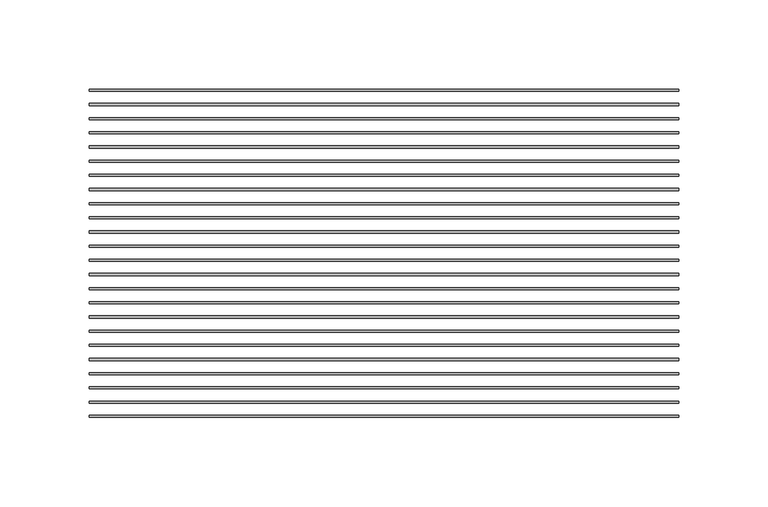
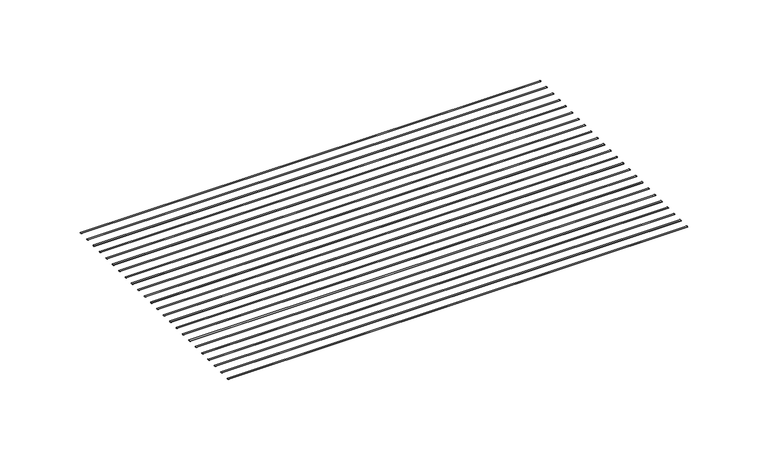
"""IFC4 building model written with IfcOpenShell, lengths in millimetres: proxy geometry, CRAi Generic Model Mesh Piece Face Based : CRAi Generic Model Mesh Piece Face Based."""

from ifc_helpers import new_model, si_unit, point, frame, origin, place, context, project, spatial, ellipse_curve, trimmed, source, transform, mapped, element, save
from ifc_brep_helpers import plane_surface, extruded_surface, advanced_brep


def generic_models_441de798(model_context):
    return source(origin(), model_context, "Body", "AdvancedBrep", [
        advanced_brep(
        [(-165.1, -59.177116, -2.9765625), (-165.1, -60.367741, -2.9765625), (165.1, -59.177116, -2.9765625), (165.1, -60.367741, -2.9765625)],
        [
            (0, 1, ellipse_curve(frame((-165.1, -59.7724285, -2.9765625), z_axis=(-1.0, 0.0, 0.0), x_axis=(0.0, -1.0, 0.0)), 0.5953125, 0.1984375)),
            (1, 0, ellipse_curve(frame((-165.1, -59.7724285, -2.9765625), z_axis=(-1.0, 0.0, 0.0), x_axis=(0.0, -1.0, 0.0)), 0.5953125, 0.1984375)),
            (2, 3, ellipse_curve(frame((165.1, -59.7724285, -2.9765625), z_axis=(1.0, 0.0, 0.0), x_axis=(0.0, -1.0, 0.0)), 0.5953125, 0.1984375)),
            (3, 2, ellipse_curve(frame((165.1, -59.7724285, -2.9765625), z_axis=(1.0, 0.0, 0.0), x_axis=(0.0, -1.0, 0.0)), 0.5953125, 0.1984375)),
            (0, 2),
            (3, 1),
        ],
        [
            plane_surface(frame((-165.1, -59.7724285, -2.9765625), z_axis=(-1.0, 0.0, 0.0), x_axis=(0.0, 0.0, 1.0))),
            plane_surface(frame((165.1, -59.7724285, -2.9765625), z_axis=(1.0, 0.0, 0.0), x_axis=(0.0, 0.0, 1.0))),
            extruded_surface(trimmed(ellipse_curve(frame((165.1, -59.7724285, -2.9765625), z_axis=(-1.0, 0.0, 0.0), x_axis=(0.0, -1.0, 0.0)), 0.5953125, 0.1984375), [point((165.1, -59.177116, -2.9765625))], [point((165.1, -60.367741, -2.9765625))], True, "CARTESIAN"), (-330.2, 0.0, 0.0), 330.2),
            extruded_surface(trimmed(ellipse_curve(frame((165.1, -59.7724285, -2.9765625), z_axis=(-1.0, 0.0, 0.0), x_axis=(0.0, -1.0, 0.0)), 0.5953125, 0.1984375), [point((165.1, -60.367741, -2.9765625))], [point((165.1, -59.177116, -2.9765625))], True, "CARTESIAN"), (-330.2, 0.0, 0.0), 330.2),
        ],
        [
            (0, [[1, 2]]),
            (1, [[3, 4]]),
            (2, [[-1, 5, -4, 6]]),
            (3, [[-2, -6, -3, -5]]),
        ],
    ),
        advanced_brep(
        [(-165.1, -67.114616, -2.9765625), (-165.1, -68.305241, -2.9765625), (165.1, -67.114616, -2.9765625), (165.1, -68.305241, -2.9765625)],
        [
            (0, 1, ellipse_curve(frame((-165.1, -67.7099285, -2.9765625), z_axis=(-1.0, 0.0, 0.0), x_axis=(0.0, -1.0, 0.0)), 0.5953125, 0.1984375)),
            (1, 0, ellipse_curve(frame((-165.1, -67.7099285, -2.9765625), z_axis=(-1.0, 0.0, 0.0), x_axis=(0.0, -1.0, 0.0)), 0.5953125, 0.1984375)),
            (2, 3, ellipse_curve(frame((165.1, -67.7099285, -2.9765625), z_axis=(1.0, 0.0, 0.0), x_axis=(0.0, -1.0, 0.0)), 0.5953125, 0.1984375)),
            (3, 2, ellipse_curve(frame((165.1, -67.7099285, -2.9765625), z_axis=(1.0, 0.0, 0.0), x_axis=(0.0, -1.0, 0.0)), 0.5953125, 0.1984375)),
            (0, 2),
            (3, 1),
        ],
        [
            plane_surface(frame((-165.1, -67.7099285, -2.9765625), z_axis=(-1.0, 0.0, 0.0), x_axis=(0.0, 0.0, 1.0))),
            plane_surface(frame((165.1, -67.7099285, -2.9765625), z_axis=(1.0, 0.0, 0.0), x_axis=(0.0, 0.0, 1.0))),
            extruded_surface(trimmed(ellipse_curve(frame((165.1, -67.7099285, -2.9765625), z_axis=(-1.0, 0.0, 0.0), x_axis=(0.0, -1.0, 0.0)), 0.5953125, 0.1984375), [point((165.1, -67.114616, -2.9765625))], [point((165.1, -68.305241, -2.9765625))], True, "CARTESIAN"), (-330.2, 0.0, 0.0), 330.2),
            extruded_surface(trimmed(ellipse_curve(frame((165.1, -67.7099285, -2.9765625), z_axis=(-1.0, 0.0, 0.0), x_axis=(0.0, -1.0, 0.0)), 0.5953125, 0.1984375), [point((165.1, -68.305241, -2.9765625))], [point((165.1, -67.114616, -2.9765625))], True, "CARTESIAN"), (-330.2, 0.0, 0.0), 330.2),
        ],
        [
            (0, [[1, 2]]),
            (1, [[3, 4]]),
            (2, [[-1, 5, -4, 6]]),
            (3, [[-2, -6, -3, -5]]),
        ],
    ),
        advanced_brep(
        [(-165.1, -75.052116, -2.9765625), (-165.1, -76.242741, -2.9765625), (165.1, -75.052116, -2.9765625), (165.1, -76.242741, -2.9765625)],
        [
            (0, 1, ellipse_curve(frame((-165.1, -75.6474285, -2.9765625), z_axis=(-1.0, 0.0, 0.0), x_axis=(0.0, -1.0, 0.0)), 0.5953125, 0.1984375)),
            (1, 0, ellipse_curve(frame((-165.1, -75.6474285, -2.9765625), z_axis=(-1.0, 0.0, 0.0), x_axis=(0.0, -1.0, 0.0)), 0.5953125, 0.1984375)),
            (2, 3, ellipse_curve(frame((165.1, -75.6474285, -2.9765625), z_axis=(1.0, 0.0, 0.0), x_axis=(0.0, -1.0, 0.0)), 0.5953125, 0.1984375)),
            (3, 2, ellipse_curve(frame((165.1, -75.6474285, -2.9765625), z_axis=(1.0, 0.0, 0.0), x_axis=(0.0, -1.0, 0.0)), 0.5953125, 0.1984375)),
            (0, 2),
            (3, 1),
        ],
        [
            plane_surface(frame((-165.1, -75.6474285, -2.9765625), z_axis=(-1.0, 0.0, 0.0), x_axis=(0.0, 0.0, 1.0))),
            plane_surface(frame((165.1, -75.6474285, -2.9765625), z_axis=(1.0, 0.0, 0.0), x_axis=(0.0, 0.0, 1.0))),
            extruded_surface(trimmed(ellipse_curve(frame((165.1, -75.6474285, -2.9765625), z_axis=(-1.0, 0.0, 0.0), x_axis=(0.0, -1.0, 0.0)), 0.5953125, 0.1984375), [point((165.1, -75.052116, -2.9765625))], [point((165.1, -76.242741, -2.9765625))], True, "CARTESIAN"), (-330.2, 0.0, 0.0), 330.2),
            extruded_surface(trimmed(ellipse_curve(frame((165.1, -75.6474285, -2.9765625), z_axis=(-1.0, 0.0, 0.0), x_axis=(0.0, -1.0, 0.0)), 0.5953125, 0.1984375), [point((165.1, -76.242741, -2.9765625))], [point((165.1, -75.052116, -2.9765625))], True, "CARTESIAN"), (-330.2, 0.0, 0.0), 330.2),
        ],
        [
            (0, [[1, 2]]),
            (1, [[3, 4]]),
            (2, [[-1, 5, -4, 6]]),
            (3, [[-2, -6, -3, -5]]),
        ],
    ),
        advanced_brep(
        [(-165.1, -82.989616, -2.9765625), (-165.1, -84.180241, -2.9765625), (165.1, -82.989616, -2.9765625), (165.1, -84.180241, -2.9765625)],
        [
            (0, 1, ellipse_curve(frame((-165.1, -83.5849285, -2.9765625), z_axis=(-1.0, 0.0, 0.0), x_axis=(0.0, -1.0, 0.0)), 0.5953125, 0.1984375)),
            (1, 0, ellipse_curve(frame((-165.1, -83.5849285, -2.9765625), z_axis=(-1.0, 0.0, 0.0), x_axis=(0.0, -1.0, 0.0)), 0.5953125, 0.1984375)),
            (2, 3, ellipse_curve(frame((165.1, -83.5849285, -2.9765625), z_axis=(1.0, 0.0, 0.0), x_axis=(0.0, -1.0, 0.0)), 0.5953125, 0.1984375)),
            (3, 2, ellipse_curve(frame((165.1, -83.5849285, -2.9765625), z_axis=(1.0, 0.0, 0.0), x_axis=(0.0, -1.0, 0.0)), 0.5953125, 0.1984375)),
            (0, 2),
            (3, 1),
        ],
        [
            plane_surface(frame((-165.1, -83.5849285, -2.9765625), z_axis=(-1.0, 0.0, 0.0), x_axis=(0.0, 0.0, 1.0))),
            plane_surface(frame((165.1, -83.5849285, -2.9765625), z_axis=(1.0, 0.0, 0.0), x_axis=(0.0, 0.0, 1.0))),
            extruded_surface(trimmed(ellipse_curve(frame((165.1, -83.5849285, -2.9765625), z_axis=(-1.0, 0.0, 0.0), x_axis=(0.0, -1.0, 0.0)), 0.5953125, 0.1984375), [point((165.1, -82.989616, -2.9765625))], [point((165.1, -84.180241, -2.9765625))], True, "CARTESIAN"), (-330.2, 0.0, 0.0), 330.2),
            extruded_surface(trimmed(ellipse_curve(frame((165.1, -83.5849285, -2.9765625), z_axis=(-1.0, 0.0, 0.0), x_axis=(0.0, -1.0, 0.0)), 0.5953125, 0.1984375), [point((165.1, -84.180241, -2.9765625))], [point((165.1, -82.989616, -2.9765625))], True, "CARTESIAN"), (-330.2, 0.0, 0.0), 330.2),
        ],
        [
            (0, [[1, 2]]),
            (1, [[3, 4]]),
            (2, [[-1, 5, -4, 6]]),
            (3, [[-2, -6, -3, -5]]),
        ],
    ),
        advanced_brep(
        [(-165.1, -90.927116, -2.9765625), (-165.1, -92.117741, -2.9765625), (165.1, -90.927116, -2.9765625), (165.1, -92.117741, -2.9765625)],
        [
            (0, 1, ellipse_curve(frame((-165.1, -91.5224285, -2.9765625), z_axis=(-1.0, 0.0, 0.0), x_axis=(0.0, -1.0, 0.0)), 0.5953125, 0.1984375)),
            (1, 0, ellipse_curve(frame((-165.1, -91.5224285, -2.9765625), z_axis=(-1.0, 0.0, 0.0), x_axis=(0.0, -1.0, 0.0)), 0.5953125, 0.1984375)),
            (2, 3, ellipse_curve(frame((165.1, -91.5224285, -2.9765625), z_axis=(1.0, 0.0, 0.0), x_axis=(0.0, -1.0, 0.0)), 0.5953125, 0.1984375)),
            (3, 2, ellipse_curve(frame((165.1, -91.5224285, -2.9765625), z_axis=(1.0, 0.0, 0.0), x_axis=(0.0, -1.0, 0.0)), 0.5953125, 0.1984375)),
            (0, 2),
            (3, 1),
        ],
        [
            plane_surface(frame((-165.1, -91.5224285, -2.9765625), z_axis=(-1.0, 0.0, 0.0), x_axis=(0.0, 0.0, 1.0))),
            plane_surface(frame((165.1, -91.5224285, -2.9765625), z_axis=(1.0, 0.0, 0.0), x_axis=(0.0, 0.0, 1.0))),
            extruded_surface(trimmed(ellipse_curve(frame((165.1, -91.5224285, -2.9765625), z_axis=(-1.0, 0.0, 0.0), x_axis=(0.0, -1.0, 0.0)), 0.5953125, 0.1984375), [point((165.1, -90.927116, -2.9765625))], [point((165.1, -92.117741, -2.9765625))], True, "CARTESIAN"), (-330.2, 0.0, 0.0), 330.2),
            extruded_surface(trimmed(ellipse_curve(frame((165.1, -91.5224285, -2.9765625), z_axis=(-1.0, 0.0, 0.0), x_axis=(0.0, -1.0, 0.0)), 0.5953125, 0.1984375), [point((165.1, -92.117741, -2.9765625))], [point((165.1, -90.927116, -2.9765625))], True, "CARTESIAN"), (-330.2, 0.0, 0.0), 330.2),
        ],
        [
            (0, [[1, 2]]),
            (1, [[3, 4]]),
            (2, [[-1, 5, -4, 6]]),
            (3, [[-2, -6, -3, -5]]),
        ],
    ),
        advanced_brep(
        [(-165.1, -98.864616, -2.9765625), (-165.1, -100.055241, -2.9765625), (165.1, -98.864616, -2.9765625), (165.1, -100.055241, -2.9765625)],
        [
            (0, 1, ellipse_curve(frame((-165.1, -99.4599285, -2.9765625), z_axis=(-1.0, 0.0, 0.0), x_axis=(0.0, -1.0, 0.0)), 0.5953125, 0.1984375)),
            (1, 0, ellipse_curve(frame((-165.1, -99.4599285, -2.9765625), z_axis=(-1.0, 0.0, 0.0), x_axis=(0.0, -1.0, 0.0)), 0.5953125, 0.1984375)),
            (2, 3, ellipse_curve(frame((165.1, -99.4599285, -2.9765625), z_axis=(1.0, 0.0, 0.0), x_axis=(0.0, -1.0, 0.0)), 0.5953125, 0.1984375)),
            (3, 2, ellipse_curve(frame((165.1, -99.4599285, -2.9765625), z_axis=(1.0, 0.0, 0.0), x_axis=(0.0, -1.0, 0.0)), 0.5953125, 0.1984375)),
            (0, 2),
            (3, 1),
        ],
        [
            plane_surface(frame((-165.1, -99.4599285, -2.9765625), z_axis=(-1.0, 0.0, 0.0), x_axis=(0.0, 0.0, 1.0))),
            plane_surface(frame((165.1, -99.4599285, -2.9765625), z_axis=(1.0, 0.0, 0.0), x_axis=(0.0, 0.0, 1.0))),
            extruded_surface(trimmed(ellipse_curve(frame((165.1, -99.4599285, -2.9765625), z_axis=(-1.0, 0.0, 0.0), x_axis=(0.0, -1.0, 0.0)), 0.5953125, 0.1984375), [point((165.1, -98.864616, -2.9765625))], [point((165.1, -100.055241, -2.9765625))], True, "CARTESIAN"), (-330.2, 0.0, 0.0), 330.2),
            extruded_surface(trimmed(ellipse_curve(frame((165.1, -99.4599285, -2.9765625), z_axis=(-1.0, 0.0, 0.0), x_axis=(0.0, -1.0, 0.0)), 0.5953125, 0.1984375), [point((165.1, -100.055241, -2.9765625))], [point((165.1, -98.864616, -2.9765625))], True, "CARTESIAN"), (-330.2, 0.0, 0.0), 330.2),
        ],
        [
            (0, [[1, 2]]),
            (1, [[3, 4]]),
            (2, [[-1, 5, -4, 6]]),
            (3, [[-2, -6, -3, -5]]),
        ],
    ),
        advanced_brep(
        [(-165.1, -106.802116, -2.9765625), (-165.1, -107.992741, -2.9765625), (165.1, -106.802116, -2.9765625), (165.1, -107.992741, -2.9765625)],
        [
            (0, 1, ellipse_curve(frame((-165.1, -107.3974285, -2.9765625), z_axis=(-1.0, 0.0, 0.0), x_axis=(0.0, -1.0, 0.0)), 0.5953125, 0.1984375)),
            (1, 0, ellipse_curve(frame((-165.1, -107.3974285, -2.9765625), z_axis=(-1.0, 0.0, 0.0), x_axis=(0.0, -1.0, 0.0)), 0.5953125, 0.1984375)),
            (2, 3, ellipse_curve(frame((165.1, -107.3974285, -2.9765625), z_axis=(1.0, 0.0, 0.0), x_axis=(0.0, -1.0, 0.0)), 0.5953125, 0.1984375)),
            (3, 2, ellipse_curve(frame((165.1, -107.3974285, -2.9765625), z_axis=(1.0, 0.0, 0.0), x_axis=(0.0, -1.0, 0.0)), 0.5953125, 0.1984375)),
            (0, 2),
            (3, 1),
        ],
        [
            plane_surface(frame((-165.1, -107.3974285, -2.9765625), z_axis=(-1.0, 0.0, 0.0), x_axis=(0.0, 0.0, 1.0))),
            plane_surface(frame((165.1, -107.3974285, -2.9765625), z_axis=(1.0, 0.0, 0.0), x_axis=(0.0, 0.0, 1.0))),
            extruded_surface(trimmed(ellipse_curve(frame((165.1, -107.3974285, -2.9765625), z_axis=(-1.0, 0.0, 0.0), x_axis=(0.0, -1.0, 0.0)), 0.5953125, 0.1984375), [point((165.1, -106.802116, -2.9765625))], [point((165.1, -107.992741, -2.9765625))], True, "CARTESIAN"), (-330.2, 0.0, 0.0), 330.2),
            extruded_surface(trimmed(ellipse_curve(frame((165.1, -107.3974285, -2.9765625), z_axis=(-1.0, 0.0, 0.0), x_axis=(0.0, -1.0, 0.0)), 0.5953125, 0.1984375), [point((165.1, -107.992741, -2.9765625))], [point((165.1, -106.802116, -2.9765625))], True, "CARTESIAN"), (-330.2, 0.0, 0.0), 330.2),
        ],
        [
            (0, [[1, 2]]),
            (1, [[3, 4]]),
            (2, [[-1, 5, -4, 6]]),
            (3, [[-2, -6, -3, -5]]),
        ],
    ),
        advanced_brep(
        [(-165.1, -114.739616, -2.9765625), (-165.1, -115.930241, -2.9765625), (165.1, -114.739616, -2.9765625), (165.1, -115.930241, -2.9765625)],
        [
            (0, 1, ellipse_curve(frame((-165.1, -115.3349285, -2.9765625), z_axis=(-1.0, 0.0, 0.0), x_axis=(0.0, -1.0, 0.0)), 0.5953125, 0.1984375)),
            (1, 0, ellipse_curve(frame((-165.1, -115.3349285, -2.9765625), z_axis=(-1.0, 0.0, 0.0), x_axis=(0.0, -1.0, 0.0)), 0.5953125, 0.1984375)),
            (2, 3, ellipse_curve(frame((165.1, -115.3349285, -2.9765625), z_axis=(1.0, 0.0, 0.0), x_axis=(0.0, -1.0, 0.0)), 0.5953125, 0.1984375)),
            (3, 2, ellipse_curve(frame((165.1, -115.3349285, -2.9765625), z_axis=(1.0, 0.0, 0.0), x_axis=(0.0, -1.0, 0.0)), 0.5953125, 0.1984375)),
            (0, 2),
            (3, 1),
        ],
        [
            plane_surface(frame((-165.1, -115.3349285, -2.9765625), z_axis=(-1.0, 0.0, 0.0), x_axis=(0.0, 0.0, 1.0))),
            plane_surface(frame((165.1, -115.3349285, -2.9765625), z_axis=(1.0, 0.0, 0.0), x_axis=(0.0, 0.0, 1.0))),
            extruded_surface(trimmed(ellipse_curve(frame((165.1, -115.3349285, -2.9765625), z_axis=(-1.0, 0.0, 0.0), x_axis=(0.0, -1.0, 0.0)), 0.5953125, 0.1984375), [point((165.1, -114.739616, -2.9765625))], [point((165.1, -115.930241, -2.9765625))], True, "CARTESIAN"), (-330.2, 0.0, 0.0), 330.2),
            extruded_surface(trimmed(ellipse_curve(frame((165.1, -115.3349285, -2.9765625), z_axis=(-1.0, 0.0, 0.0), x_axis=(0.0, -1.0, 0.0)), 0.5953125, 0.1984375), [point((165.1, -115.930241, -2.9765625))], [point((165.1, -114.739616, -2.9765625))], True, "CARTESIAN"), (-330.2, 0.0, 0.0), 330.2),
        ],
        [
            (0, [[1, 2]]),
            (1, [[3, 4]]),
            (2, [[-1, 5, -4, 6]]),
            (3, [[-2, -6, -3, -5]]),
        ],
    ),
        advanced_brep(
        [(-165.1, -122.677116, -2.9765625), (-165.1, -123.867741, -2.9765625), (165.1, -122.677116, -2.9765625), (165.1, -123.867741, -2.9765625)],
        [
            (0, 1, ellipse_curve(frame((-165.1, -123.2724285, -2.9765625), z_axis=(-1.0, 0.0, 0.0), x_axis=(0.0, -1.0, 0.0)), 0.5953125, 0.1984375)),
            (1, 0, ellipse_curve(frame((-165.1, -123.2724285, -2.9765625), z_axis=(-1.0, 0.0, 0.0), x_axis=(0.0, -1.0, 0.0)), 0.5953125, 0.1984375)),
            (2, 3, ellipse_curve(frame((165.1, -123.2724285, -2.9765625), z_axis=(1.0, 0.0, 0.0), x_axis=(0.0, -1.0, 0.0)), 0.5953125, 0.1984375)),
            (3, 2, ellipse_curve(frame((165.1, -123.2724285, -2.9765625), z_axis=(1.0, 0.0, 0.0), x_axis=(0.0, -1.0, 0.0)), 0.5953125, 0.1984375)),
            (0, 2),
            (3, 1),
        ],
        [
            plane_surface(frame((-165.1, -123.2724285, -2.9765625), z_axis=(-1.0, 0.0, 0.0), x_axis=(0.0, 0.0, 1.0))),
            plane_surface(frame((165.1, -123.2724285, -2.9765625), z_axis=(1.0, 0.0, 0.0), x_axis=(0.0, 0.0, 1.0))),
            extruded_surface(trimmed(ellipse_curve(frame((165.1, -123.2724285, -2.9765625), z_axis=(-1.0, 0.0, 0.0), x_axis=(0.0, -1.0, 0.0)), 0.5953125, 0.1984375), [point((165.1, -122.677116, -2.9765625))], [point((165.1, -123.867741, -2.9765625))], True, "CARTESIAN"), (-330.2, 0.0, 0.0), 330.2),
            extruded_surface(trimmed(ellipse_curve(frame((165.1, -123.2724285, -2.9765625), z_axis=(-1.0, 0.0, 0.0), x_axis=(0.0, -1.0, 0.0)), 0.5953125, 0.1984375), [point((165.1, -123.867741, -2.9765625))], [point((165.1, -122.677116, -2.9765625))], True, "CARTESIAN"), (-330.2, 0.0, 0.0), 330.2),
        ],
        [
            (0, [[1, 2]]),
            (1, [[3, 4]]),
            (2, [[-1, 5, -4, 6]]),
            (3, [[-2, -6, -3, -5]]),
        ],
    ),
        advanced_brep(
        [(-165.1, -130.614616, -2.9765625), (-165.1, -131.805241, -2.9765625), (165.1, -130.614616, -2.9765625), (165.1, -131.805241, -2.9765625)],
        [
            (0, 1, ellipse_curve(frame((-165.1, -131.2099285, -2.9765625), z_axis=(-1.0, 0.0, 0.0), x_axis=(0.0, -1.0, 0.0)), 0.5953125, 0.1984375)),
            (1, 0, ellipse_curve(frame((-165.1, -131.2099285, -2.9765625), z_axis=(-1.0, 0.0, 0.0), x_axis=(0.0, -1.0, 0.0)), 0.5953125, 0.1984375)),
            (2, 3, ellipse_curve(frame((165.1, -131.2099285, -2.9765625), z_axis=(1.0, 0.0, 0.0), x_axis=(0.0, -1.0, 0.0)), 0.5953125, 0.1984375)),
            (3, 2, ellipse_curve(frame((165.1, -131.2099285, -2.9765625), z_axis=(1.0, 0.0, 0.0), x_axis=(0.0, -1.0, 0.0)), 0.5953125, 0.1984375)),
            (0, 2),
            (3, 1),
        ],
        [
            plane_surface(frame((-165.1, -131.2099285, -2.9765625), z_axis=(-1.0, 0.0, 0.0), x_axis=(0.0, 0.0, 1.0))),
            plane_surface(frame((165.1, -131.2099285, -2.9765625), z_axis=(1.0, 0.0, 0.0), x_axis=(0.0, 0.0, 1.0))),
            extruded_surface(trimmed(ellipse_curve(frame((165.1, -131.2099285, -2.9765625), z_axis=(-1.0, 0.0, 0.0), x_axis=(0.0, -1.0, 0.0)), 0.5953125, 0.1984375), [point((165.1, -130.614616, -2.9765625))], [point((165.1, -131.805241, -2.9765625))], True, "CARTESIAN"), (-330.2, 0.0, 0.0), 330.2),
            extruded_surface(trimmed(ellipse_curve(frame((165.1, -131.2099285, -2.9765625), z_axis=(-1.0, 0.0, 0.0), x_axis=(0.0, -1.0, 0.0)), 0.5953125, 0.1984375), [point((165.1, -131.805241, -2.9765625))], [point((165.1, -130.614616, -2.9765625))], True, "CARTESIAN"), (-330.2, 0.0, 0.0), 330.2),
        ],
        [
            (0, [[1, 2]]),
            (1, [[3, 4]]),
            (2, [[-1, 5, -4, 6]]),
            (3, [[-2, -6, -3, -5]]),
        ],
    ),
        advanced_brep(
        [(-165.1, -138.552116, -2.9765625), (-165.1, -139.742741, -2.9765625), (165.1, -138.552116, -2.9765625), (165.1, -139.742741, -2.9765625)],
        [
            (0, 1, ellipse_curve(frame((-165.1, -139.1474285, -2.9765625), z_axis=(-1.0, 0.0, 0.0), x_axis=(0.0, -1.0, 0.0)), 0.5953125, 0.1984375)),
            (1, 0, ellipse_curve(frame((-165.1, -139.1474285, -2.9765625), z_axis=(-1.0, 0.0, 0.0), x_axis=(0.0, -1.0, 0.0)), 0.5953125, 0.1984375)),
            (2, 3, ellipse_curve(frame((165.1, -139.1474285, -2.9765625), z_axis=(1.0, 0.0, 0.0), x_axis=(0.0, -1.0, 0.0)), 0.5953125, 0.1984375)),
            (3, 2, ellipse_curve(frame((165.1, -139.1474285, -2.9765625), z_axis=(1.0, 0.0, 0.0), x_axis=(0.0, -1.0, 0.0)), 0.5953125, 0.1984375)),
            (0, 2),
            (3, 1),
        ],
        [
            plane_surface(frame((-165.1, -139.1474285, -2.9765625), z_axis=(-1.0, 0.0, 0.0), x_axis=(0.0, 0.0, 1.0))),
            plane_surface(frame((165.1, -139.1474285, -2.9765625), z_axis=(1.0, 0.0, 0.0), x_axis=(0.0, 0.0, 1.0))),
            extruded_surface(trimmed(ellipse_curve(frame((165.1, -139.1474285, -2.9765625), z_axis=(-1.0, 0.0, 0.0), x_axis=(0.0, -1.0, 0.0)), 0.5953125, 0.1984375), [point((165.1, -138.552116, -2.9765625))], [point((165.1, -139.742741, -2.9765625))], True, "CARTESIAN"), (-330.2, 0.0, 0.0), 330.2),
            extruded_surface(trimmed(ellipse_curve(frame((165.1, -139.1474285, -2.9765625), z_axis=(-1.0, 0.0, 0.0), x_axis=(0.0, -1.0, 0.0)), 0.5953125, 0.1984375), [point((165.1, -139.742741, -2.9765625))], [point((165.1, -138.552116, -2.9765625))], True, "CARTESIAN"), (-330.2, 0.0, 0.0), 330.2),
        ],
        [
            (0, [[1, 2]]),
            (1, [[3, 4]]),
            (2, [[-1, 5, -4, 6]]),
            (3, [[-2, -6, -3, -5]]),
        ],
    ),
        advanced_brep(
        [(-165.1, -146.489616, -2.9765625), (-165.1, -147.680241, -2.9765625), (165.1, -146.489616, -2.9765625), (165.1, -147.680241, -2.9765625)],
        [
            (0, 1, ellipse_curve(frame((-165.1, -147.0849285, -2.9765625), z_axis=(-1.0, 0.0, 0.0), x_axis=(0.0, -1.0, 0.0)), 0.5953125, 0.1984375)),
            (1, 0, ellipse_curve(frame((-165.1, -147.0849285, -2.9765625), z_axis=(-1.0, 0.0, 0.0), x_axis=(0.0, -1.0, 0.0)), 0.5953125, 0.1984375)),
            (2, 3, ellipse_curve(frame((165.1, -147.0849285, -2.9765625), z_axis=(1.0, 0.0, 0.0), x_axis=(0.0, -1.0, 0.0)), 0.5953125, 0.1984375)),
            (3, 2, ellipse_curve(frame((165.1, -147.0849285, -2.9765625), z_axis=(1.0, 0.0, 0.0), x_axis=(0.0, -1.0, 0.0)), 0.5953125, 0.1984375)),
            (0, 2),
            (3, 1),
        ],
        [
            plane_surface(frame((-165.1, -147.0849285, -2.9765625), z_axis=(-1.0, 0.0, 0.0), x_axis=(0.0, 0.0, 1.0))),
            plane_surface(frame((165.1, -147.0849285, -2.9765625), z_axis=(1.0, 0.0, 0.0), x_axis=(0.0, 0.0, 1.0))),
            extruded_surface(trimmed(ellipse_curve(frame((165.1, -147.0849285, -2.9765625), z_axis=(-1.0, 0.0, 0.0), x_axis=(0.0, -1.0, 0.0)), 0.5953125, 0.1984375), [point((165.1, -146.489616, -2.9765625))], [point((165.1, -147.680241, -2.9765625))], True, "CARTESIAN"), (-330.2, 0.0, 0.0), 330.2),
            extruded_surface(trimmed(ellipse_curve(frame((165.1, -147.0849285, -2.9765625), z_axis=(-1.0, 0.0, 0.0), x_axis=(0.0, -1.0, 0.0)), 0.5953125, 0.1984375), [point((165.1, -147.680241, -2.9765625))], [point((165.1, -146.489616, -2.9765625))], True, "CARTESIAN"), (-330.2, 0.0, 0.0), 330.2),
        ],
        [
            (0, [[1, 2]]),
            (1, [[3, 4]]),
            (2, [[-1, 5, -4, 6]]),
            (3, [[-2, -6, -3, -5]]),
        ],
    ),
        advanced_brep(
        [(-165.1, -154.427116, -2.9765625), (-165.1, -155.617741, -2.9765625), (165.1, -154.427116, -2.9765625), (165.1, -155.617741, -2.9765625)],
        [
            (0, 1, ellipse_curve(frame((-165.1, -155.0224285, -2.9765625), z_axis=(-1.0, 0.0, 0.0), x_axis=(0.0, -1.0, 0.0)), 0.5953125, 0.1984375)),
            (1, 0, ellipse_curve(frame((-165.1, -155.0224285, -2.9765625), z_axis=(-1.0, 0.0, 0.0), x_axis=(0.0, -1.0, 0.0)), 0.5953125, 0.1984375)),
            (2, 3, ellipse_curve(frame((165.1, -155.0224285, -2.9765625), z_axis=(1.0, 0.0, 0.0), x_axis=(0.0, -1.0, 0.0)), 0.5953125, 0.1984375)),
            (3, 2, ellipse_curve(frame((165.1, -155.0224285, -2.9765625), z_axis=(1.0, 0.0, 0.0), x_axis=(0.0, -1.0, 0.0)), 0.5953125, 0.1984375)),
            (0, 2),
            (3, 1),
        ],
        [
            plane_surface(frame((-165.1, -155.0224285, -2.9765625), z_axis=(-1.0, 0.0, 0.0), x_axis=(0.0, 0.0, 1.0))),
            plane_surface(frame((165.1, -155.0224285, -2.9765625), z_axis=(1.0, 0.0, 0.0), x_axis=(0.0, 0.0, 1.0))),
            extruded_surface(trimmed(ellipse_curve(frame((165.1, -155.0224285, -2.9765625), z_axis=(-1.0, 0.0, 0.0), x_axis=(0.0, -1.0, 0.0)), 0.5953125, 0.1984375), [point((165.1, -154.427116, -2.9765625))], [point((165.1, -155.617741, -2.9765625))], True, "CARTESIAN"), (-330.2, 0.0, 0.0), 330.2),
            extruded_surface(trimmed(ellipse_curve(frame((165.1, -155.0224285, -2.9765625), z_axis=(-1.0, 0.0, 0.0), x_axis=(0.0, -1.0, 0.0)), 0.5953125, 0.1984375), [point((165.1, -155.617741, -2.9765625))], [point((165.1, -154.427116, -2.9765625))], True, "CARTESIAN"), (-330.2, 0.0, 0.0), 330.2),
        ],
        [
            (0, [[1, 2]]),
            (1, [[3, 4]]),
            (2, [[-1, 5, -4, 6]]),
            (3, [[-2, -6, -3, -5]]),
        ],
    ),
        advanced_brep(
        [(-165.1, -162.364616, -2.9765625), (-165.1, -163.555241, -2.9765625), (165.1, -162.364616, -2.9765625), (165.1, -163.555241, -2.9765625)],
        [
            (0, 1, ellipse_curve(frame((-165.1, -162.9599285, -2.9765625), z_axis=(-1.0, 0.0, 0.0), x_axis=(0.0, -1.0, 0.0)), 0.5953125, 0.1984375)),
            (1, 0, ellipse_curve(frame((-165.1, -162.9599285, -2.9765625), z_axis=(-1.0, 0.0, 0.0), x_axis=(0.0, -1.0, 0.0)), 0.5953125, 0.1984375)),
            (2, 3, ellipse_curve(frame((165.1, -162.9599285, -2.9765625), z_axis=(1.0, 0.0, 0.0), x_axis=(0.0, -1.0, 0.0)), 0.5953125, 0.1984375)),
            (3, 2, ellipse_curve(frame((165.1, -162.9599285, -2.9765625), z_axis=(1.0, 0.0, 0.0), x_axis=(0.0, -1.0, 0.0)), 0.5953125, 0.1984375)),
            (0, 2),
            (3, 1),
        ],
        [
            plane_surface(frame((-165.1, -162.9599285, -2.9765625), z_axis=(-1.0, 0.0, 0.0), x_axis=(0.0, 0.0, 1.0))),
            plane_surface(frame((165.1, -162.9599285, -2.9765625), z_axis=(1.0, 0.0, 0.0), x_axis=(0.0, 0.0, 1.0))),
            extruded_surface(trimmed(ellipse_curve(frame((165.1, -162.9599285, -2.9765625), z_axis=(-1.0, 0.0, 0.0), x_axis=(0.0, -1.0, 0.0)), 0.5953125, 0.1984375), [point((165.1, -162.364616, -2.9765625))], [point((165.1, -163.555241, -2.9765625))], True, "CARTESIAN"), (-330.2, 0.0, 0.0), 330.2),
            extruded_surface(trimmed(ellipse_curve(frame((165.1, -162.9599285, -2.9765625), z_axis=(-1.0, 0.0, 0.0), x_axis=(0.0, -1.0, 0.0)), 0.5953125, 0.1984375), [point((165.1, -163.555241, -2.9765625))], [point((165.1, -162.364616, -2.9765625))], True, "CARTESIAN"), (-330.2, 0.0, 0.0), 330.2),
        ],
        [
            (0, [[1, 2]]),
            (1, [[3, 4]]),
            (2, [[-1, 5, -4, 6]]),
            (3, [[-2, -6, -3, -5]]),
        ],
    ),
        advanced_brep(
        [(-165.1, -170.302116, -2.9765625), (-165.1, -171.492741, -2.9765625), (165.1, -170.302116, -2.9765625), (165.1, -171.492741, -2.9765625)],
        [
            (0, 1, ellipse_curve(frame((-165.1, -170.8974285, -2.9765625), z_axis=(-1.0, 0.0, 0.0), x_axis=(0.0, -1.0, 0.0)), 0.5953125, 0.1984375)),
            (1, 0, ellipse_curve(frame((-165.1, -170.8974285, -2.9765625), z_axis=(-1.0, 0.0, 0.0), x_axis=(0.0, -1.0, 0.0)), 0.5953125, 0.1984375)),
            (2, 3, ellipse_curve(frame((165.1, -170.8974285, -2.9765625), z_axis=(1.0, 0.0, 0.0), x_axis=(0.0, -1.0, 0.0)), 0.5953125, 0.1984375)),
            (3, 2, ellipse_curve(frame((165.1, -170.8974285, -2.9765625), z_axis=(1.0, 0.0, 0.0), x_axis=(0.0, -1.0, 0.0)), 0.5953125, 0.1984375)),
            (0, 2),
            (3, 1),
        ],
        [
            plane_surface(frame((-165.1, -170.8974285, -2.9765625), z_axis=(-1.0, 0.0, 0.0), x_axis=(0.0, 0.0, 1.0))),
            plane_surface(frame((165.1, -170.8974285, -2.9765625), z_axis=(1.0, 0.0, 0.0), x_axis=(0.0, 0.0, 1.0))),
            extruded_surface(trimmed(ellipse_curve(frame((165.1, -170.8974285, -2.9765625), z_axis=(-1.0, 0.0, 0.0), x_axis=(0.0, -1.0, 0.0)), 0.5953125, 0.1984375), [point((165.1, -170.302116, -2.9765625))], [point((165.1, -171.492741, -2.9765625))], True, "CARTESIAN"), (-330.2, 0.0, 0.0), 330.2),
            extruded_surface(trimmed(ellipse_curve(frame((165.1, -170.8974285, -2.9765625), z_axis=(-1.0, 0.0, 0.0), x_axis=(0.0, -1.0, 0.0)), 0.5953125, 0.1984375), [point((165.1, -171.492741, -2.9765625))], [point((165.1, -170.302116, -2.9765625))], True, "CARTESIAN"), (-330.2, 0.0, 0.0), 330.2),
        ],
        [
            (0, [[1, 2]]),
            (1, [[3, 4]]),
            (2, [[-1, 5, -4, 6]]),
            (3, [[-2, -6, -3, -5]]),
        ],
    ),
        advanced_brep(
        [(-165.1, -178.239616, -2.9765625), (-165.1, -179.430241, -2.9765625), (165.1, -178.239616, -2.9765625), (165.1, -179.430241, -2.9765625)],
        [
            (0, 1, ellipse_curve(frame((-165.1, -178.8349285, -2.9765625), z_axis=(-1.0, 0.0, 0.0), x_axis=(0.0, -1.0, 0.0)), 0.5953125, 0.1984375)),
            (1, 0, ellipse_curve(frame((-165.1, -178.8349285, -2.9765625), z_axis=(-1.0, 0.0, 0.0), x_axis=(0.0, -1.0, 0.0)), 0.5953125, 0.1984375)),
            (2, 3, ellipse_curve(frame((165.1, -178.8349285, -2.9765625), z_axis=(1.0, 0.0, 0.0), x_axis=(0.0, -1.0, 0.0)), 0.5953125, 0.1984375)),
            (3, 2, ellipse_curve(frame((165.1, -178.8349285, -2.9765625), z_axis=(1.0, 0.0, 0.0), x_axis=(0.0, -1.0, 0.0)), 0.5953125, 0.1984375)),
            (0, 2),
            (3, 1),
        ],
        [
            plane_surface(frame((-165.1, -178.8349285, -2.9765625), z_axis=(-1.0, 0.0, 0.0), x_axis=(0.0, 0.0, 1.0))),
            plane_surface(frame((165.1, -178.8349285, -2.9765625), z_axis=(1.0, 0.0, 0.0), x_axis=(0.0, 0.0, 1.0))),
            extruded_surface(trimmed(ellipse_curve(frame((165.1, -178.8349285, -2.9765625), z_axis=(-1.0, 0.0, 0.0), x_axis=(0.0, -1.0, 0.0)), 0.5953125, 0.1984375), [point((165.1, -178.239616, -2.9765625))], [point((165.1, -179.430241, -2.9765625))], True, "CARTESIAN"), (-330.2, 0.0, 0.0), 330.2),
            extruded_surface(trimmed(ellipse_curve(frame((165.1, -178.8349285, -2.9765625), z_axis=(-1.0, 0.0, 0.0), x_axis=(0.0, -1.0, 0.0)), 0.5953125, 0.1984375), [point((165.1, -179.430241, -2.9765625))], [point((165.1, -178.239616, -2.9765625))], True, "CARTESIAN"), (-330.2, 0.0, 0.0), 330.2),
        ],
        [
            (0, [[1, 2]]),
            (1, [[3, 4]]),
            (2, [[-1, 5, -4, 6]]),
            (3, [[-2, -6, -3, -5]]),
        ],
    ),
        advanced_brep(
        [(-165.1, -186.177116, -2.9765625), (-165.1, -187.367741, -2.9765625), (165.1, -186.177116, -2.9765625), (165.1, -187.367741, -2.9765625)],
        [
            (0, 1, ellipse_curve(frame((-165.1, -186.7724285, -2.9765625), z_axis=(-1.0, 0.0, 0.0), x_axis=(0.0, -1.0, 0.0)), 0.5953125, 0.1984375)),
            (1, 0, ellipse_curve(frame((-165.1, -186.7724285, -2.9765625), z_axis=(-1.0, 0.0, 0.0), x_axis=(0.0, -1.0, 0.0)), 0.5953125, 0.1984375)),
            (2, 3, ellipse_curve(frame((165.1, -186.7724285, -2.9765625), z_axis=(1.0, 0.0, 0.0), x_axis=(0.0, -1.0, 0.0)), 0.5953125, 0.1984375)),
            (3, 2, ellipse_curve(frame((165.1, -186.7724285, -2.9765625), z_axis=(1.0, 0.0, 0.0), x_axis=(0.0, -1.0, 0.0)), 0.5953125, 0.1984375)),
            (0, 2),
            (3, 1),
        ],
        [
            plane_surface(frame((-165.1, -186.7724285, -2.9765625), z_axis=(-1.0, 0.0, 0.0), x_axis=(0.0, 0.0, 1.0))),
            plane_surface(frame((165.1, -186.7724285, -2.9765625), z_axis=(1.0, 0.0, 0.0), x_axis=(0.0, 0.0, 1.0))),
            extruded_surface(trimmed(ellipse_curve(frame((165.1, -186.7724285, -2.9765625), z_axis=(-1.0, 0.0, 0.0), x_axis=(0.0, -1.0, 0.0)), 0.5953125, 0.1984375), [point((165.1, -186.177116, -2.9765625))], [point((165.1, -187.367741, -2.9765625))], True, "CARTESIAN"), (-330.2, 0.0, 0.0), 330.2),
            extruded_surface(trimmed(ellipse_curve(frame((165.1, -186.7724285, -2.9765625), z_axis=(-1.0, 0.0, 0.0), x_axis=(0.0, -1.0, 0.0)), 0.5953125, 0.1984375), [point((165.1, -187.367741, -2.9765625))], [point((165.1, -186.177116, -2.9765625))], True, "CARTESIAN"), (-330.2, 0.0, 0.0), 330.2),
        ],
        [
            (0, [[1, 2]]),
            (1, [[3, 4]]),
            (2, [[-1, 5, -4, 6]]),
            (3, [[-2, -6, -3, -5]]),
        ],
    ),
        advanced_brep(
        [(-165.1, -194.114616, -2.9765625), (-165.1, -195.305241, -2.9765625), (165.1, -194.114616, -2.9765625), (165.1, -195.305241, -2.9765625)],
        [
            (0, 1, ellipse_curve(frame((-165.1, -194.7099285, -2.9765625), z_axis=(-1.0, 0.0, 0.0), x_axis=(0.0, -1.0, 0.0)), 0.5953125, 0.1984375)),
            (1, 0, ellipse_curve(frame((-165.1, -194.7099285, -2.9765625), z_axis=(-1.0, 0.0, 0.0), x_axis=(0.0, -1.0, 0.0)), 0.5953125, 0.1984375)),
            (2, 3, ellipse_curve(frame((165.1, -194.7099285, -2.9765625), z_axis=(1.0, 0.0, 0.0), x_axis=(0.0, -1.0, 0.0)), 0.5953125, 0.1984375)),
            (3, 2, ellipse_curve(frame((165.1, -194.7099285, -2.9765625), z_axis=(1.0, 0.0, 0.0), x_axis=(0.0, -1.0, 0.0)), 0.5953125, 0.1984375)),
            (0, 2),
            (3, 1),
        ],
        [
            plane_surface(frame((-165.1, -194.7099285, -2.9765625), z_axis=(-1.0, 0.0, 0.0), x_axis=(0.0, 0.0, 1.0))),
            plane_surface(frame((165.1, -194.7099285, -2.9765625), z_axis=(1.0, 0.0, 0.0), x_axis=(0.0, 0.0, 1.0))),
            extruded_surface(trimmed(ellipse_curve(frame((165.1, -194.7099285, -2.9765625), z_axis=(-1.0, 0.0, 0.0), x_axis=(0.0, -1.0, 0.0)), 0.5953125, 0.1984375), [point((165.1, -194.114616, -2.9765625))], [point((165.1, -195.305241, -2.9765625))], True, "CARTESIAN"), (-330.2, 0.0, 0.0), 330.2),
            extruded_surface(trimmed(ellipse_curve(frame((165.1, -194.7099285, -2.9765625), z_axis=(-1.0, 0.0, 0.0), x_axis=(0.0, -1.0, 0.0)), 0.5953125, 0.1984375), [point((165.1, -195.305241, -2.9765625))], [point((165.1, -194.114616, -2.9765625))], True, "CARTESIAN"), (-330.2, 0.0, 0.0), 330.2),
        ],
        [
            (0, [[1, 2]]),
            (1, [[3, 4]]),
            (2, [[-1, 5, -4, 6]]),
            (3, [[-2, -6, -3, -5]]),
        ],
    ),
        advanced_brep(
        [(-165.1, -202.052116, -2.9765625), (-165.1, -203.242741, -2.9765625), (165.1, -202.052116, -2.9765625), (165.1, -203.242741, -2.9765625)],
        [
            (0, 1, ellipse_curve(frame((-165.1, -202.6474285, -2.9765625), z_axis=(-1.0, 0.0, 0.0), x_axis=(0.0, -1.0, 0.0)), 0.5953125, 0.1984375)),
            (1, 0, ellipse_curve(frame((-165.1, -202.6474285, -2.9765625), z_axis=(-1.0, 0.0, 0.0), x_axis=(0.0, -1.0, 0.0)), 0.5953125, 0.1984375)),
            (2, 3, ellipse_curve(frame((165.1, -202.6474285, -2.9765625), z_axis=(1.0, 0.0, 0.0), x_axis=(0.0, -1.0, 0.0)), 0.5953125, 0.1984375)),
            (3, 2, ellipse_curve(frame((165.1, -202.6474285, -2.9765625), z_axis=(1.0, 0.0, 0.0), x_axis=(0.0, -1.0, 0.0)), 0.5953125, 0.1984375)),
            (0, 2),
            (3, 1),
        ],
        [
            plane_surface(frame((-165.1, -202.6474285, -2.9765625), z_axis=(-1.0, 0.0, 0.0), x_axis=(0.0, 0.0, 1.0))),
            plane_surface(frame((165.1, -202.6474285, -2.9765625), z_axis=(1.0, 0.0, 0.0), x_axis=(0.0, 0.0, 1.0))),
            extruded_surface(trimmed(ellipse_curve(frame((165.1, -202.6474285, -2.9765625), z_axis=(-1.0, 0.0, 0.0), x_axis=(0.0, -1.0, 0.0)), 0.5953125, 0.1984375), [point((165.1, -202.052116, -2.9765625))], [point((165.1, -203.242741, -2.9765625))], True, "CARTESIAN"), (-330.2, 0.0, 0.0), 330.2),
            extruded_surface(trimmed(ellipse_curve(frame((165.1, -202.6474285, -2.9765625), z_axis=(-1.0, 0.0, 0.0), x_axis=(0.0, -1.0, 0.0)), 0.5953125, 0.1984375), [point((165.1, -203.242741, -2.9765625))], [point((165.1, -202.052116, -2.9765625))], True, "CARTESIAN"), (-330.2, 0.0, 0.0), 330.2),
        ],
        [
            (0, [[1, 2]]),
            (1, [[3, 4]]),
            (2, [[-1, 5, -4, 6]]),
            (3, [[-2, -6, -3, -5]]),
        ],
    ),
        advanced_brep(
        [(-165.1, -209.989616, -2.9765625), (-165.1, -211.180241, -2.9765625), (165.1, -209.989616, -2.9765625), (165.1, -211.180241, -2.9765625)],
        [
            (0, 1, ellipse_curve(frame((-165.1, -210.5849285, -2.9765625), z_axis=(-1.0, 0.0, 0.0), x_axis=(0.0, -1.0, 0.0)), 0.5953125, 0.1984375)),
            (1, 0, ellipse_curve(frame((-165.1, -210.5849285, -2.9765625), z_axis=(-1.0, 0.0, 0.0), x_axis=(0.0, -1.0, 0.0)), 0.5953125, 0.1984375)),
            (2, 3, ellipse_curve(frame((165.1, -210.5849285, -2.9765625), z_axis=(1.0, 0.0, 0.0), x_axis=(0.0, -1.0, 0.0)), 0.5953125, 0.1984375)),
            (3, 2, ellipse_curve(frame((165.1, -210.5849285, -2.9765625), z_axis=(1.0, 0.0, 0.0), x_axis=(0.0, -1.0, 0.0)), 0.5953125, 0.1984375)),
            (0, 2),
            (3, 1),
        ],
        [
            plane_surface(frame((-165.1, -210.5849285, -2.9765625), z_axis=(-1.0, 0.0, 0.0), x_axis=(0.0, 0.0, 1.0))),
            plane_surface(frame((165.1, -210.5849285, -2.9765625), z_axis=(1.0, 0.0, 0.0), x_axis=(0.0, 0.0, 1.0))),
            extruded_surface(trimmed(ellipse_curve(frame((165.1, -210.5849285, -2.9765625), z_axis=(-1.0, 0.0, 0.0), x_axis=(0.0, -1.0, 0.0)), 0.5953125, 0.1984375), [point((165.1, -209.989616, -2.9765625))], [point((165.1, -211.180241, -2.9765625))], True, "CARTESIAN"), (-330.2, 0.0, 0.0), 330.2),
            extruded_surface(trimmed(ellipse_curve(frame((165.1, -210.5849285, -2.9765625), z_axis=(-1.0, 0.0, 0.0), x_axis=(0.0, -1.0, 0.0)), 0.5953125, 0.1984375), [point((165.1, -211.180241, -2.9765625))], [point((165.1, -209.989616, -2.9765625))], True, "CARTESIAN"), (-330.2, 0.0, 0.0), 330.2),
        ],
        [
            (0, [[1, 2]]),
            (1, [[3, 4]]),
            (2, [[-1, 5, -4, 6]]),
            (3, [[-2, -6, -3, -5]]),
        ],
    ),
        advanced_brep(
        [(-165.1, -217.927116, -2.9765625), (-165.1, -219.117741, -2.9765625), (165.1, -217.927116, -2.9765625), (165.1, -219.117741, -2.9765625)],
        [
            (0, 1, ellipse_curve(frame((-165.1, -218.5224285, -2.9765625), z_axis=(-1.0, 0.0, 0.0), x_axis=(0.0, -1.0, 0.0)), 0.5953125, 0.1984375)),
            (1, 0, ellipse_curve(frame((-165.1, -218.5224285, -2.9765625), z_axis=(-1.0, 0.0, 0.0), x_axis=(0.0, -1.0, 0.0)), 0.5953125, 0.1984375)),
            (2, 3, ellipse_curve(frame((165.1, -218.5224285, -2.9765625), z_axis=(1.0, 0.0, 0.0), x_axis=(0.0, -1.0, 0.0)), 0.5953125, 0.1984375)),
            (3, 2, ellipse_curve(frame((165.1, -218.5224285, -2.9765625), z_axis=(1.0, 0.0, 0.0), x_axis=(0.0, -1.0, 0.0)), 0.5953125, 0.1984375)),
            (0, 2),
            (3, 1),
        ],
        [
            plane_surface(frame((-165.1, -218.5224285, -2.9765625), z_axis=(-1.0, 0.0, 0.0), x_axis=(0.0, 0.0, 1.0))),
            plane_surface(frame((165.1, -218.5224285, -2.9765625), z_axis=(1.0, 0.0, 0.0), x_axis=(0.0, 0.0, 1.0))),
            extruded_surface(trimmed(ellipse_curve(frame((165.1, -218.5224285, -2.9765625), z_axis=(-1.0, 0.0, 0.0), x_axis=(0.0, -1.0, 0.0)), 0.5953125, 0.1984375), [point((165.1, -217.927116, -2.9765625))], [point((165.1, -219.117741, -2.9765625))], True, "CARTESIAN"), (-330.2, 0.0, 0.0), 330.2),
            extruded_surface(trimmed(ellipse_curve(frame((165.1, -218.5224285, -2.9765625), z_axis=(-1.0, 0.0, 0.0), x_axis=(0.0, -1.0, 0.0)), 0.5953125, 0.1984375), [point((165.1, -219.117741, -2.9765625))], [point((165.1, -217.927116, -2.9765625))], True, "CARTESIAN"), (-330.2, 0.0, 0.0), 330.2),
        ],
        [
            (0, [[1, 2]]),
            (1, [[3, 4]]),
            (2, [[-1, 5, -4, 6]]),
            (3, [[-2, -6, -3, -5]]),
        ],
    ),
        advanced_brep(
        [(-165.1, -225.864616, -2.9765625), (-165.1, -227.055241, -2.9765625), (165.1, -225.864616, -2.9765625), (165.1, -227.055241, -2.9765625)],
        [
            (0, 1, ellipse_curve(frame((-165.1, -226.4599285, -2.9765625), z_axis=(-1.0, 0.0, 0.0), x_axis=(0.0, -1.0, 0.0)), 0.5953125, 0.1984375)),
            (1, 0, ellipse_curve(frame((-165.1, -226.4599285, -2.9765625), z_axis=(-1.0, 0.0, 0.0), x_axis=(0.0, -1.0, 0.0)), 0.5953125, 0.1984375)),
            (2, 3, ellipse_curve(frame((165.1, -226.4599285, -2.9765625), z_axis=(1.0, 0.0, 0.0), x_axis=(0.0, -1.0, 0.0)), 0.5953125, 0.1984375)),
            (3, 2, ellipse_curve(frame((165.1, -226.4599285, -2.9765625), z_axis=(1.0, 0.0, 0.0), x_axis=(0.0, -1.0, 0.0)), 0.5953125, 0.1984375)),
            (0, 2),
            (3, 1),
        ],
        [
            plane_surface(frame((-165.1, -226.4599285, -2.9765625), z_axis=(-1.0, 0.0, 0.0), x_axis=(0.0, 0.0, 1.0))),
            plane_surface(frame((165.1, -226.4599285, -2.9765625), z_axis=(1.0, 0.0, 0.0), x_axis=(0.0, 0.0, 1.0))),
            extruded_surface(trimmed(ellipse_curve(frame((165.1, -226.4599285, -2.9765625), z_axis=(-1.0, 0.0, 0.0), x_axis=(0.0, -1.0, 0.0)), 0.5953125, 0.1984375), [point((165.1, -225.864616, -2.9765625))], [point((165.1, -227.055241, -2.9765625))], True, "CARTESIAN"), (-330.2, 0.0, 0.0), 330.2),
            extruded_surface(trimmed(ellipse_curve(frame((165.1, -226.4599285, -2.9765625), z_axis=(-1.0, 0.0, 0.0), x_axis=(0.0, -1.0, 0.0)), 0.5953125, 0.1984375), [point((165.1, -227.055241, -2.9765625))], [point((165.1, -225.864616, -2.9765625))], True, "CARTESIAN"), (-330.2, 0.0, 0.0), 330.2),
        ],
        [
            (0, [[1, 2]]),
            (1, [[3, 4]]),
            (2, [[-1, 5, -4, 6]]),
            (3, [[-2, -6, -3, -5]]),
        ],
    ),
        advanced_brep(
        [(-165.1, -233.802116, -2.9765625), (-165.1, -234.992741, -2.9765625), (165.1, -233.802116, -2.9765625), (165.1, -234.992741, -2.9765625)],
        [
            (0, 1, ellipse_curve(frame((-165.1, -234.3974285, -2.9765625), z_axis=(-1.0, 0.0, 0.0), x_axis=(0.0, -1.0, 0.0)), 0.5953125, 0.1984375)),
            (1, 0, ellipse_curve(frame((-165.1, -234.3974285, -2.9765625), z_axis=(-1.0, 0.0, 0.0), x_axis=(0.0, -1.0, 0.0)), 0.5953125, 0.1984375)),
            (2, 3, ellipse_curve(frame((165.1, -234.3974285, -2.9765625), z_axis=(1.0, 0.0, 0.0), x_axis=(0.0, -1.0, 0.0)), 0.5953125, 0.1984375)),
            (3, 2, ellipse_curve(frame((165.1, -234.3974285, -2.9765625), z_axis=(1.0, 0.0, 0.0), x_axis=(0.0, -1.0, 0.0)), 0.5953125, 0.1984375)),
            (0, 2),
            (3, 1),
        ],
        [
            plane_surface(frame((-165.1, -234.3974285, -2.9765625), z_axis=(-1.0, 0.0, 0.0), x_axis=(0.0, 0.0, 1.0))),
            plane_surface(frame((165.1, -234.3974285, -2.9765625), z_axis=(1.0, 0.0, 0.0), x_axis=(0.0, 0.0, 1.0))),
            extruded_surface(trimmed(ellipse_curve(frame((165.1, -234.3974285, -2.9765625), z_axis=(-1.0, 0.0, 0.0), x_axis=(0.0, -1.0, 0.0)), 0.5953125, 0.1984375), [point((165.1, -233.802116, -2.9765625))], [point((165.1, -234.992741, -2.9765625))], True, "CARTESIAN"), (-330.2, 0.0, 0.0), 330.2),
            extruded_surface(trimmed(ellipse_curve(frame((165.1, -234.3974285, -2.9765625), z_axis=(-1.0, 0.0, 0.0), x_axis=(0.0, -1.0, 0.0)), 0.5953125, 0.1984375), [point((165.1, -234.992741, -2.9765625))], [point((165.1, -233.802116, -2.9765625))], True, "CARTESIAN"), (-330.2, 0.0, 0.0), 330.2),
        ],
        [
            (0, [[1, 2]]),
            (1, [[3, 4]]),
            (2, [[-1, 5, -4, 6]]),
            (3, [[-2, -6, -3, -5]]),
        ],
    ),
        advanced_brep(
        [(-165.1, -241.739616, -2.9765625), (-165.1, -242.930241, -2.9765625), (165.1, -241.739616, -2.9765625), (165.1, -242.930241, -2.9765625)],
        [
            (0, 1, ellipse_curve(frame((-165.1, -242.3349285, -2.9765625), z_axis=(-1.0, 0.0, 0.0), x_axis=(0.0, -1.0, 0.0)), 0.5953125, 0.1984375)),
            (1, 0, ellipse_curve(frame((-165.1, -242.3349285, -2.9765625), z_axis=(-1.0, 0.0, 0.0), x_axis=(0.0, -1.0, 0.0)), 0.5953125, 0.1984375)),
            (2, 3, ellipse_curve(frame((165.1, -242.3349285, -2.9765625), z_axis=(1.0, 0.0, 0.0), x_axis=(0.0, -1.0, 0.0)), 0.5953125, 0.1984375)),
            (3, 2, ellipse_curve(frame((165.1, -242.3349285, -2.9765625), z_axis=(1.0, 0.0, 0.0), x_axis=(0.0, -1.0, 0.0)), 0.5953125, 0.1984375)),
            (0, 2),
            (3, 1),
        ],
        [
            plane_surface(frame((-165.1, -242.3349285, -2.9765625), z_axis=(-1.0, 0.0, 0.0), x_axis=(0.0, 0.0, 1.0))),
            plane_surface(frame((165.1, -242.3349285, -2.9765625), z_axis=(1.0, 0.0, 0.0), x_axis=(0.0, 0.0, 1.0))),
            extruded_surface(trimmed(ellipse_curve(frame((165.1, -242.3349285, -2.9765625), z_axis=(-1.0, 0.0, 0.0), x_axis=(0.0, -1.0, 0.0)), 0.5953125, 0.1984375), [point((165.1, -241.739616, -2.9765625))], [point((165.1, -242.930241, -2.9765625))], True, "CARTESIAN"), (-330.2, 0.0, 0.0), 330.2),
            extruded_surface(trimmed(ellipse_curve(frame((165.1, -242.3349285, -2.9765625), z_axis=(-1.0, 0.0, 0.0), x_axis=(0.0, -1.0, 0.0)), 0.5953125, 0.1984375), [point((165.1, -242.930241, -2.9765625))], [point((165.1, -241.739616, -2.9765625))], True, "CARTESIAN"), (-330.2, 0.0, 0.0), 330.2),
        ],
        [
            (0, [[1, 2]]),
            (1, [[3, 4]]),
            (2, [[-1, 5, -4, 6]]),
            (3, [[-2, -6, -3, -5]]),
        ],
    ),
    ])


if __name__ == "__main__":
    model = new_model("IFC4")
    model_context = context("Model", 3, world=origin())
    ifc_project = project(units=[si_unit("LENGTHUNIT", "METRE", prefix="MILLI")], contexts=[model_context])
    site = spatial("IfcSite", under=ifc_project)
    building = spatial("IfcBuilding", under=site)
    placement = place(None, origin())
    generic_models_shape = generic_models_441de798(model_context)
    element("IfcBuildingElementProxy", 1, Name="CRAi Generic Model Mesh Piece Face Based : CRAi Generic Model Mesh Piece Face Based", ObjectType="CRAi Generic Model Mesh Piece Face Based : CRAi Generic Model Mesh Piece Face Based", at=placement, inside=building, context=model_context, shape_type="MappedRepresentation", body=[
        mapped(generic_models_shape, transform((0.0, 0.0, 0.0), x_axis=(1.0, 0.0, 0.0), y_axis=(0.0, 1.0, 0.0), z_axis=(0.0, 0.0, 1.0))),
    ])
    save(model, "model.ifc")
